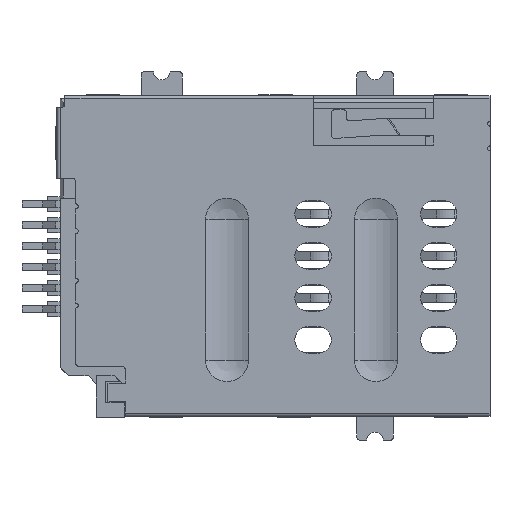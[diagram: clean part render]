
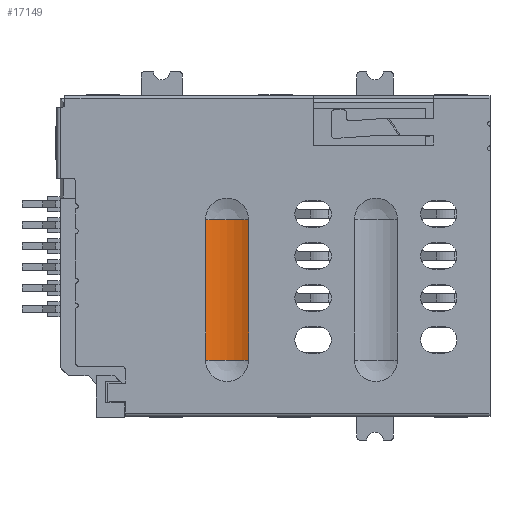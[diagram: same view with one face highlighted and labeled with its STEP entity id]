
A CAD part, top view. The second image highlights one B-rep face of the part: STEP entity #17149.
In plain terms, the highlighted cylindrical face has radius 3 mm (diameter 6 mm), a partial arc.
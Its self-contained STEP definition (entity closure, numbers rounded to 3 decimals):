
#1049=DIRECTION('',(0.,-1.,0.));
#1050=VECTOR('',#1049,8.5);
#1051=CARTESIAN_POINT('',(-1.5,2.2,1.3));
#1052=LINE('',#1051,#1050);
#1058=DIRECTION('',(0.,-1.,0.));
#1059=VECTOR('',#1058,8.5);
#1060=CARTESIAN_POINT('',(-4.1,2.2,1.3));
#1061=LINE('',#1060,#1059);
#5883=CARTESIAN_POINT('',(-2.8,-6.3,4.004));
#5884=DIRECTION('',(0.,1.,0.));
#5885=DIRECTION('',(0.433,0.,-0.901));
#5886=AXIS2_PLACEMENT_3D('',#5883,#5884,#5885);
#5888=CARTESIAN_POINT('',(-2.8,-6.3,4.004));
#5889=DIRECTION('',(0.,-1.,0.));
#5890=DIRECTION('',(-0.433,0.,-0.901));
#5891=AXIS2_PLACEMENT_3D('',#5888,#5889,#5890);
#5893=CARTESIAN_POINT('',(-2.8,2.2,4.004));
#5894=DIRECTION('',(0.,-1.,0.));
#5895=DIRECTION('',(-0.433,0.,-0.901));
#5896=AXIS2_PLACEMENT_3D('',#5893,#5894,#5895);
#5898=CARTESIAN_POINT('',(-2.8,2.2,4.004));
#5899=DIRECTION('',(0.,1.,0.));
#5900=DIRECTION('',(0.433,0.,-0.901));
#5901=AXIS2_PLACEMENT_3D('',#5898,#5899,#5900);
#8813=CARTESIAN_POINT('',(-4.1,2.2,1.3));
#8814=CARTESIAN_POINT('',(-1.5,2.2,1.3));
#8815=VERTEX_POINT('',#8813);
#8816=VERTEX_POINT('',#8814);
#8823=CARTESIAN_POINT('',(-2.8,2.2,1.004));
#8824=VERTEX_POINT('',#8823);
#8825=CARTESIAN_POINT('',(-1.5,-6.3,1.3));
#8826=CARTESIAN_POINT('',(-4.1,-6.3,1.3));
#8827=VERTEX_POINT('',#8825);
#8828=VERTEX_POINT('',#8826);
#8835=CARTESIAN_POINT('',(-2.8,-6.3,1.004));
#8836=VERTEX_POINT('',#8835);
#17132=CARTESIAN_POINT('',(-2.8,2.2,4.004));
#17133=DIRECTION('',(0.,-1.,0.));
#17134=DIRECTION('',(1.,0.,0.));
#17135=AXIS2_PLACEMENT_3D('',#17132,#17133,#17134);
#17136=CYLINDRICAL_SURFACE('',#17135,3.);
#17138=ORIENTED_EDGE('',*,*,#17137,.T.);
#17140=ORIENTED_EDGE('',*,*,#17139,.F.);
#17141=ORIENTED_EDGE('',*,*,#9856,.F.);
#17143=ORIENTED_EDGE('',*,*,#17142,.T.);
#17145=ORIENTED_EDGE('',*,*,#17144,.F.);
#17146=ORIENTED_EDGE('',*,*,#9852,.T.);
#17147=EDGE_LOOP('',(#17138,#17140,#17141,#17143,#17145,#17146));
#17148=FACE_OUTER_BOUND('',#17147,.F.);
#17149=ADVANCED_FACE('',(#17148),#17136,.F.);
#5887=CIRCLE('',#5886,3.);
#5892=CIRCLE('',#5891,3.);
#5897=CIRCLE('',#5896,3.);
#5902=CIRCLE('',#5901,3.);
#9852=EDGE_CURVE('',#8816,#8827,#1052,.T.);
#9856=EDGE_CURVE('',#8815,#8828,#1061,.T.);
#17137=EDGE_CURVE('',#8827,#8836,#5887,.T.);
#17139=EDGE_CURVE('',#8828,#8836,#5892,.T.);
#17142=EDGE_CURVE('',#8815,#8824,#5897,.T.);
#17144=EDGE_CURVE('',#8816,#8824,#5902,.T.);
